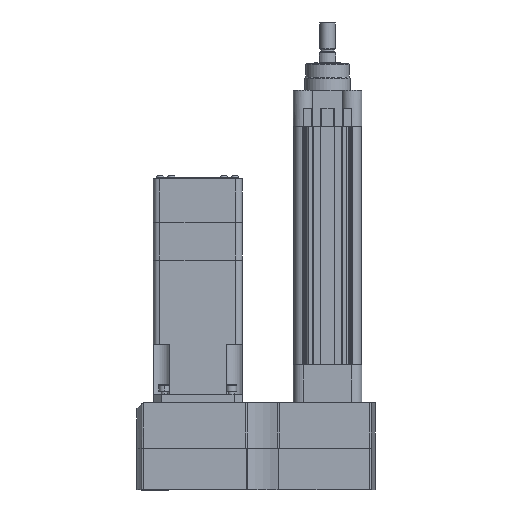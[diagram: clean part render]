
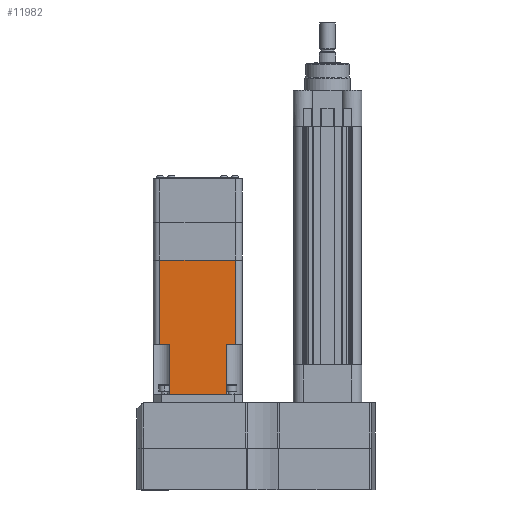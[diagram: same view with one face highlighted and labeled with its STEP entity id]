
A CAD part, front view. The second image highlights one B-rep face of the part: STEP entity #11982.
In plain terms, the highlighted planar face has unit normal (0, -1, 0).
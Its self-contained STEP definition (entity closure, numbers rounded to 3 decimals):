
#816 = LINE ( 'NONE', #4250, #35409 ) ;
#820 = VERTEX_POINT ( 'NONE', #11316 ) ;
#1182 = LINE ( 'NONE', #18480, #11493 ) ;
#2320 = ORIENTED_EDGE ( 'NONE', *, *, #44666, .F. ) ;
#3004 = VERTEX_POINT ( 'NONE', #29751 ) ;
#3187 = PLANE ( 'NONE',  #34922 ) ;
#3493 = EDGE_LOOP ( 'NONE', ( #17720, #38221, #35972, #2320, #20887, #40462, #43667, #27686 ) ) ;
#4250 = CARTESIAN_POINT ( 'NONE',  ( -112.522, -35.052, 35.052 ) ) ;
#6344 = DIRECTION ( 'NONE',  ( 1., 0., 0. ) ) ;
#6701 = DIRECTION ( 'NONE',  ( 0., 0., 1. ) ) ;
#7841 = DIRECTION ( 'NONE',  ( -1., 0., 0. ) ) ;
#9824 = CARTESIAN_POINT ( 'NONE',  ( -112.522, -35.052, -29.972 ) ) ;
#10201 = VERTEX_POINT ( 'NONE', #28627 ) ;
#11075 = VERTEX_POINT ( 'NONE', #41347 ) ;
#11316 = CARTESIAN_POINT ( 'NONE',  ( -45.898, -35.052, 29.972 ) ) ;
#11391 = CARTESIAN_POINT ( 'NONE',  ( -45.898, -35.052, -22.476 ) ) ;
#11493 = VECTOR ( 'NONE', #38270, 1000. ) ;
#11877 = LINE ( 'NONE', #28537, #36146 ) ;
#11982 = ADVANCED_FACE ( 'NONE', ( #25829 ), #3187, .F. ) ;
#14243 = DIRECTION ( 'NONE',  ( 1., 0., 0. ) ) ;
#14536 = VECTOR ( 'NONE', #43794, 1000. ) ;
#15290 = LINE ( 'NONE', #9824, #25583 ) ;
#15619 = LINE ( 'NONE', #23130, #14536 ) ;
#16118 = CARTESIAN_POINT ( 'NONE',  ( -45.898, -35.052, 35.052 ) ) ;
#17720 = ORIENTED_EDGE ( 'NONE', *, *, #33634, .F. ) ;
#18118 = DIRECTION ( 'NONE',  ( 0., 0., 1. ) ) ;
#18480 = CARTESIAN_POINT ( 'NONE',  ( -45.898, -35.052, 35.052 ) ) ;
#20887 = ORIENTED_EDGE ( 'NONE', *, *, #33475, .T. ) ;
#21112 = CARTESIAN_POINT ( 'NONE',  ( -6.401, -35.052, 22.476 ) ) ;
#23005 = EDGE_CURVE ( 'NONE', #820, #27826, #15619, .T. ) ;
#23130 = CARTESIAN_POINT ( 'NONE',  ( -112.522, -35.052, 29.972 ) ) ;
#24610 = LINE ( 'NONE', #16118, #32725 ) ;
#25583 = VECTOR ( 'NONE', #6344, 1000. ) ;
#25829 = FACE_OUTER_BOUND ( 'NONE', #3493, .T. ) ;
#26933 = LINE ( 'NONE', #34945, #36123 ) ;
#27224 = DIRECTION ( 'NONE',  ( 0., 1., 0. ) ) ;
#27266 = LINE ( 'NONE', #27692, #35351 ) ;
#27686 = ORIENTED_EDGE ( 'NONE', *, *, #23005, .T. ) ;
#27692 = CARTESIAN_POINT ( 'NONE',  ( -6.401, -35.052, 35.052 ) ) ;
#27826 = VERTEX_POINT ( 'NONE', #42489 ) ;
#28537 = CARTESIAN_POINT ( 'NONE',  ( -45.898, -35.052, -22.476 ) ) ;
#28627 = CARTESIAN_POINT ( 'NONE',  ( -45.898, -35.052, -29.972 ) ) ;
#29751 = CARTESIAN_POINT ( 'NONE',  ( -6.401, -35.052, -22.476 ) ) ;
#30077 = DIRECTION ( 'NONE',  ( 0., 0., 1. ) ) ;
#30704 = VERTEX_POINT ( 'NONE', #43415 ) ;
#30972 = EDGE_CURVE ( 'NONE', #11075, #34146, #26933, .T. ) ;
#31182 = DIRECTION ( 'NONE',  ( 0., 0., 1. ) ) ;
#32725 = VECTOR ( 'NONE', #30077, 1000. ) ;
#33475 = EDGE_CURVE ( 'NONE', #3004, #34146, #27266, .T. ) ;
#33634 = EDGE_CURVE ( 'NONE', #30704, #27826, #816, .T. ) ;
#34146 = VERTEX_POINT ( 'NONE', #21112 ) ;
#34769 = EDGE_CURVE ( 'NONE', #11075, #820, #24610, .T. ) ;
#34922 = AXIS2_PLACEMENT_3D ( 'NONE', #44569, #27224, #6701 ) ;
#34945 = CARTESIAN_POINT ( 'NONE',  ( -45.898, -35.052, 22.476 ) ) ;
#35351 = VECTOR ( 'NONE', #31182, 1000. ) ;
#35409 = VECTOR ( 'NONE', #18118, 1000. ) ;
#35972 = ORIENTED_EDGE ( 'NONE', *, *, #43111, .T. ) ;
#36123 = VECTOR ( 'NONE', #14243, 1000. ) ;
#36146 = VECTOR ( 'NONE', #7841, 1000. ) ;
#38221 = ORIENTED_EDGE ( 'NONE', *, *, #41603, .T. ) ;
#38270 = DIRECTION ( 'NONE',  ( 0., 0., 1. ) ) ;
#40462 = ORIENTED_EDGE ( 'NONE', *, *, #30972, .F. ) ;
#40793 = VERTEX_POINT ( 'NONE', #11391 ) ;
#41347 = CARTESIAN_POINT ( 'NONE',  ( -45.898, -35.052, 22.476 ) ) ;
#41603 = EDGE_CURVE ( 'NONE', #30704, #10201, #15290, .T. ) ;
#42489 = CARTESIAN_POINT ( 'NONE',  ( -112.522, -35.052, 29.972 ) ) ;
#43111 = EDGE_CURVE ( 'NONE', #10201, #40793, #1182, .T. ) ;
#43415 = CARTESIAN_POINT ( 'NONE',  ( -112.522, -35.052, -29.972 ) ) ;
#43667 = ORIENTED_EDGE ( 'NONE', *, *, #34769, .T. ) ;
#43794 = DIRECTION ( 'NONE',  ( -1., 0., 0. ) ) ;
#44569 = CARTESIAN_POINT ( 'NONE',  ( -112.522, -35.052, 35.052 ) ) ;
#44666 = EDGE_CURVE ( 'NONE', #3004, #40793, #11877, .T. ) ;
